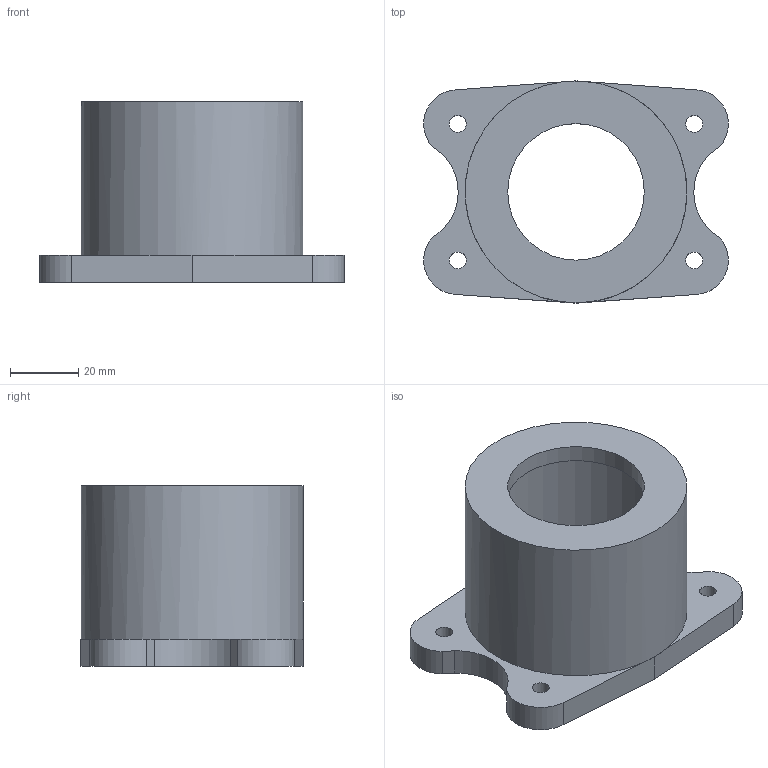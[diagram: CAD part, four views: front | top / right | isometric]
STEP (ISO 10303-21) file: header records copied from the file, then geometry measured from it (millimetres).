
FILE_DESCRIPTION( ( 'Unknown' ), '1' );
FILE_NAME( 'F:/navkite transat/construction/2016/3D ET ASSEMBLAGES/self tailing/WI 06.stp', 'Unknown', ( 'GMA' ), ( 'Unknown' ), 'XStep 1.0', 'Unknown', ' ' );
FILE_SCHEMA( ( 'automotive_design' ) );
Length unit declared in the file: millimetre
Products named in the file (1): 1
Bounding box: 89.26 x 65.09 x 53 mm (x, y, z)
Volume: 68444 mm3; surface area: 28315.2 mm2
Topology: 1 solids, 1 shells, 29 faces, 76 edges, 50 vertices
Faces by surface type: plane 16, cylinder 13
Full cylindrical faces by diameter (mm): 4.917 x4, 40 x1, 55 x1, 65 x1
Entity records: 1092 total; most frequent: DIRECTION 154, CARTESIAN_POINT 139, ORIENTED_EDGE 128, EDGE_CURVE 64, AXIS2_PLACEMENT_3D 60, EDGE_LOOP 47, VERTEX_POINT 45, FACE_OUTER_BOUND 36
